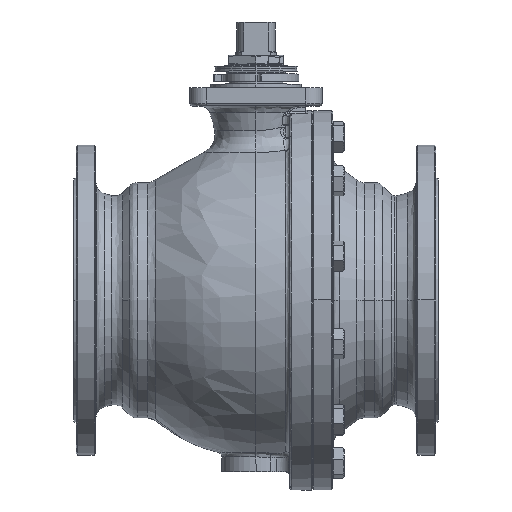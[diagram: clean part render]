
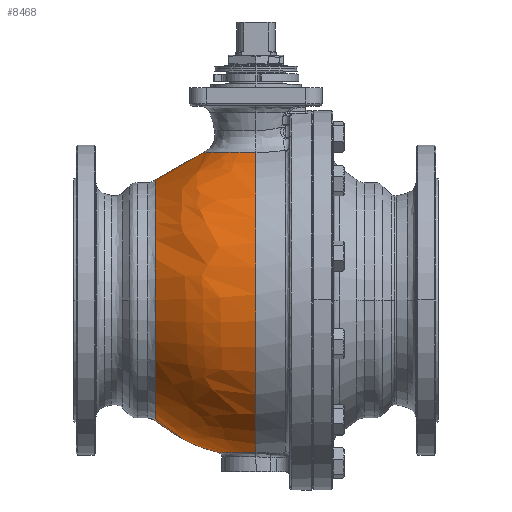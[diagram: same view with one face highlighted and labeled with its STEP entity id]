
A CAD part, top view. The second image highlights one B-rep face of the part: STEP entity #8468.
In plain terms, the highlighted free-form (B-spline) face has degree [3, 3] with [4, 4] control points.
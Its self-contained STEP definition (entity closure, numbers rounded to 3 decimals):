
#419 = CIRCLE ( 'NONE', #18384, 172. ) ;
#509 = EDGE_CURVE ( 'NONE', #3279, #5263, #1872, .T. ) ;
#560 = CARTESIAN_POINT ( 'NONE',  ( 33.465, 194.984, 91.527 ) ) ;
#571 = DIRECTION ( 'NONE',  ( 0.022, 0.404, 0.915 ) ) ;
#588 = CIRCLE ( 'NONE', #22150, 132.022 ) ;
#1624 = AXIS2_PLACEMENT_3D ( 'NONE', #8364, #6439, #6175 ) ;
#1718 = CARTESIAN_POINT ( 'NONE',  ( -22.456, -46.497, -144.598 ) ) ;
#1872 = CIRCLE ( 'NONE', #8460, 58.017 ) ;
#2224 = CARTESIAN_POINT ( 'NONE',  ( -100.149, -154.538, 131.723 ) ) ;
#2370 = DIRECTION ( 'NONE',  ( 0., 0., -1. ) ) ;
#2386 = CARTESIAN_POINT ( 'NONE',  ( -84.695, -194.508, -86.544 ) ) ;
#2610 = AXIS2_PLACEMENT_3D ( 'NONE', #14856, #22563, #3509 ) ;
#2695 = EDGE_LOOP ( 'NONE', ( #5241, #23148, #4364, #11720, #10017, #3339, #7994, #10983, #23254 ) ) ;
#2708 = CARTESIAN_POINT ( 'NONE',  ( -3.749, -5.688, -171.816 ) ) ;
#3154 = FACE_OUTER_BOUND ( 'NONE', #2695, .T. ) ;
#3165 = AXIS2_PLACEMENT_3D ( 'NONE', #10300, #10384, #7769 ) ;
#3279 = VERTEX_POINT ( 'NONE', #16675 ) ;
#3339 = ORIENTED_EDGE ( 'NONE', *, *, #11148, .T. ) ;
#3509 = DIRECTION ( 'NONE',  ( 0.022, 0.404, 0.915 ) ) ;
#4033 = CARTESIAN_POINT ( 'NONE',  ( 619.41, 127.534, -9.929 ) ) ;
#4364 = ORIENTED_EDGE ( 'NONE', *, *, #11696, .T. ) ;
#5241 = ORIENTED_EDGE ( 'NONE', *, *, #9923, .F. ) ;
#5263 = VERTEX_POINT ( 'NONE', #7133 ) ;
#5372 = DIRECTION ( 'NONE',  ( 0.022, 0.404, 0.915 ) ) ;
#5834 = CIRCLE ( 'NONE', #1624, 132.022 ) ;
#5875 = VERTEX_POINT ( 'NONE', #15663 ) ;
#5891 = EDGE_CURVE ( 'NONE', #10705, #19709, #5834, .T. ) ;
#5926 = CARTESIAN_POINT ( 'NONE',  ( -3.749, -5.688, -171.816 ) ) ;
#6068 = CARTESIAN_POINT ( 'NONE',  ( 0., -46.497, -14.5 ) ) ;
#6175 = DIRECTION ( 'NONE',  ( 0., 0., -1. ) ) ;
#6296 = DIRECTION ( 'NONE',  ( 0., 0., 1. ) ) ;
#6439 = DIRECTION ( 'NONE',  ( 0., 1., 0. ) ) ;
#7128 = CARTESIAN_POINT ( 'NONE',  ( 0., 63.75, -14.5 ) ) ;
#7133 = CARTESIAN_POINT ( 'NONE',  ( -38.298, 20.169, 147.42 ) ) ;
#7386 = DIRECTION ( 'NONE',  ( -0.931, 0.341, -0.128 ) ) ;
#7720 = CARTESIAN_POINT ( 'NONE',  ( 0., 63.75, -181.468 ) ) ;
#7769 = DIRECTION ( 'NONE',  ( 0., 0., -1. ) ) ;
#7821 = DIRECTION ( 'NONE',  ( 0., 1., 0. ) ) ;
#7994 = ORIENTED_EDGE ( 'NONE', *, *, #13643, .T. ) ;
#8110 =( BOUNDED_SURFACE ( )  B_SPLINE_SURFACE ( 3, 3, ( 
 ( #21105, #15563, #13569, #560 ),
 ( #2224, #11839, #4033, #15646 ),
 ( #2386, #21188, #23102, #19374 ),
 ( #10016, #17562, #5926, #11672 ) ),
 .UNSPECIFIED., .F., .F., .F. ) 
 B_SPLINE_SURFACE_WITH_KNOTS ( ( 4, 4 ),
 ( 4, 4 ),
 ( 0., 1. ),
 ( 0., 1. ),
 .UNSPECIFIED. ) 
 GEOMETRIC_REPRESENTATION_ITEM ( )  RATIONAL_B_SPLINE_SURFACE ( (
 ( 1., 0.333, 0.333, 1.),
 ( 0.499, 0.166, 0.166, 0.499),
 ( 0.499, 0.166, 0.166, 0.499),
 ( 1., 0.333, 0.333, 1.) ) ) 
 REPRESENTATION_ITEM ( '' )  SURFACE ( )  );
#8221 = DIRECTION ( 'NONE',  ( 1., 0., 0. ) ) ;
#8273 = CARTESIAN_POINT ( 'NONE',  ( 8.193, 23.271, -181.468 ) ) ;
#8364 = CARTESIAN_POINT ( 'NONE',  ( 0., -46.497, -14.5 ) ) ;
#8460 = AXIS2_PLACEMENT_3D ( 'NONE', #13822, #15658, #17570 ) ;
#8468 = ADVANCED_FACE ( 'NONE', ( #3154 ), #8110, .T. ) ;
#8598 = DIRECTION ( 'NONE',  ( 0., 0., -1. ) ) ;
#8864 = CARTESIAN_POINT ( 'NONE',  ( 41.299, 63.75, -181.468 ) ) ;
#9264 = CIRCLE ( 'NONE', #11578, 172. ) ;
#9277 = CIRCLE ( 'NONE', #2610, 172. ) ;
#9923 = EDGE_CURVE ( 'NONE', #10544, #23202, #419, .T. ) ;
#10016 = CARTESIAN_POINT ( 'NONE',  ( -3.749, -5.688, -171.816 ) ) ;
#10017 = ORIENTED_EDGE ( 'NONE', *, *, #19250, .T. ) ;
#10096 = AXIS2_PLACEMENT_3D ( 'NONE', #7720, #6296, #8221 ) ;
#10300 = CARTESIAN_POINT ( 'NONE',  ( 0., -46.497, -14.5 ) ) ;
#10384 = DIRECTION ( 'NONE',  ( 0., 1., 0. ) ) ;
#10544 = VERTEX_POINT ( 'NONE', #8273 ) ;
#10705 = VERTEX_POINT ( 'NONE', #16967 ) ;
#10983 = ORIENTED_EDGE ( 'NONE', *, *, #5891, .T. ) ;
#11148 = EDGE_CURVE ( 'NONE', #5875, #14888, #14029, .T. ) ;
#11438 = AXIS2_PLACEMENT_3D ( 'NONE', #11935, #15922, #571 ) ;
#11578 = AXIS2_PLACEMENT_3D ( 'NONE', #12245, #21768, #8598 ) ;
#11672 = CARTESIAN_POINT ( 'NONE',  ( -3.749, -5.688, -171.816 ) ) ;
#11696 = EDGE_CURVE ( 'NONE', #12713, #3279, #9264, .T. ) ;
#11720 = ORIENTED_EDGE ( 'NONE', *, *, #509, .T. ) ;
#11839 = CARTESIAN_POINT ( 'NONE',  ( 417.219, -344.111, 203.068 ) ) ;
#11935 = CARTESIAN_POINT ( 'NONE',  ( 0., 63.75, -14.5 ) ) ;
#12245 = CARTESIAN_POINT ( 'NONE',  ( 0., 63.75, -14.5 ) ) ;
#12713 = VERTEX_POINT ( 'NONE', #8864 ) ;
#12741 = CIRCLE ( 'NONE', #11438, 172. ) ;
#13569 = CARTESIAN_POINT ( 'NONE',  ( 187.919, 138.39, 112.826 ) ) ;
#13643 = EDGE_CURVE ( 'NONE', #14888, #10705, #588, .T. ) ;
#13730 = CIRCLE ( 'NONE', #10096, 41.299 ) ;
#13822 = CARTESIAN_POINT ( 'NONE',  ( 0., 63.75, 147.42 ) ) ;
#14029 = CIRCLE ( 'NONE', #3165, 132.022 ) ;
#14856 = CARTESIAN_POINT ( 'NONE',  ( 0., 63.75, -14.5 ) ) ;
#14888 = VERTEX_POINT ( 'NONE', #17663 ) ;
#15563 = CARTESIAN_POINT ( 'NONE',  ( 127.557, -2.414, 176.414 ) ) ;
#15646 = CARTESIAN_POINT ( 'NONE',  ( 102.042, 317.106, -81.274 ) ) ;
#15658 = DIRECTION ( 'NONE',  ( 0., 0., -1. ) ) ;
#15663 = CARTESIAN_POINT ( 'NONE',  ( -56.829, -46.497, 104.664 ) ) ;
#15922 = DIRECTION ( 'NONE',  ( 0.931, -0.341, 0.128 ) ) ;
#16675 = CARTESIAN_POINT ( 'NONE',  ( 58.017, 63.75, 147.42 ) ) ;
#16967 = CARTESIAN_POINT ( 'NONE',  ( 0., -46.497, -146.522 ) ) ;
#17562 = CARTESIAN_POINT ( 'NONE',  ( -3.749, -5.688, -171.816 ) ) ;
#17570 = DIRECTION ( 'NONE',  ( -1., 0., 0. ) ) ;
#17663 = CARTESIAN_POINT ( 'NONE',  ( 0., -46.497, 117.522 ) ) ;
#18384 = AXIS2_PLACEMENT_3D ( 'NONE', #7128, #7386, #5372 ) ;
#19250 = EDGE_CURVE ( 'NONE', #5263, #5875, #12741, .T. ) ;
#19374 = CARTESIAN_POINT ( 'NONE',  ( 77.197, 183.133, -257.088 ) ) ;
#19709 = VERTEX_POINT ( 'NONE', #1718 ) ;
#21105 = CARTESIAN_POINT ( 'NONE',  ( -26.896, 54.181, 155.114 ) ) ;
#21188 = CARTESIAN_POINT ( 'NONE',  ( 329.556, -346.297, -29.418 ) ) ;
#21768 = DIRECTION ( 'NONE',  ( 0., -1., 0. ) ) ;
#22150 = AXIS2_PLACEMENT_3D ( 'NONE', #6068, #7821, #2370 ) ;
#22563 = DIRECTION ( 'NONE',  ( 0.931, -0.341, 0.128 ) ) ;
#23102 = CARTESIAN_POINT ( 'NONE',  ( 491.448, 31.344, -199.963 ) ) ;
#23148 = ORIENTED_EDGE ( 'NONE', *, *, #23744, .T. ) ;
#23202 = VERTEX_POINT ( 'NONE', #2708 ) ;
#23254 = ORIENTED_EDGE ( 'NONE', *, *, #23453, .T. ) ;
#23453 = EDGE_CURVE ( 'NONE', #19709, #23202, #9277, .T. ) ;
#23744 = EDGE_CURVE ( 'NONE', #10544, #12713, #13730, .T. ) ;
